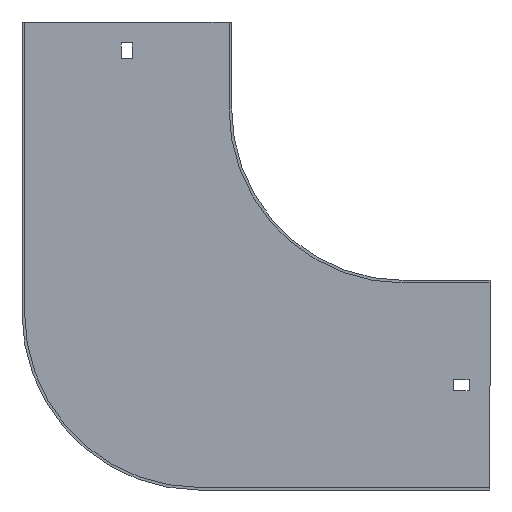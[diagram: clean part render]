
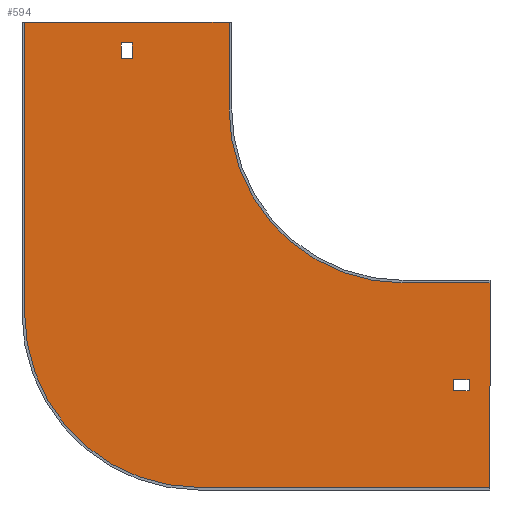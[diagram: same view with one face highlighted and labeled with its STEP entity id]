
A CAD part, front view. The second image highlights one B-rep face of the part: STEP entity #594.
In plain terms, the highlighted planar face has unit normal (0, -1, 0).
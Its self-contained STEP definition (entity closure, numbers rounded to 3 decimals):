
#6 = LINE ( 'NONE', #483, #518 ) ;
#14 = VERTEX_POINT ( 'NONE', #411 ) ;
#23 = EDGE_CURVE ( 'NONE', #787, #777, #464, .T. ) ;
#25 = DIRECTION ( 'NONE',  ( 1., 0., 0. ) ) ;
#30 = VERTEX_POINT ( 'NONE', #287 ) ;
#47 = CARTESIAN_POINT ( 'NONE',  ( 50., -1.5, -100. ) ) ;
#57 = FACE_BOUND ( 'NONE', #477, .T. ) ;
#63 = CARTESIAN_POINT ( 'NONE',  ( 50., -1.5, -98.5 ) ) ;
#74 = CARTESIAN_POINT ( 'NONE',  ( 50., -1.5, -217.5 ) ) ;
#80 = VERTEX_POINT ( 'NONE', #859 ) ;
#82 = DIRECTION ( 'NONE',  ( 0., 0., -1. ) ) ;
#97 = CARTESIAN_POINT ( 'NONE',  ( -162., -1.5, 29. ) ) ;
#98 = CARTESIAN_POINT ( 'NONE',  ( 38., -1.5, 0. ) ) ;
#101 = EDGE_CURVE ( 'NONE', #337, #119, #609, .T. ) ;
#108 = EDGE_CURVE ( 'NONE', #119, #255, #672, .T. ) ;
#110 = EDGE_CURVE ( 'NONE', #534, #450, #664, .T. ) ;
#112 = CARTESIAN_POINT ( 'NONE',  ( 0., -1.5, 38. ) ) ;
#119 = VERTEX_POINT ( 'NONE', #204 ) ;
#126 = ORIENTED_EDGE ( 'NONE', *, *, #812, .T. ) ;
#138 = EDGE_CURVE ( 'NONE', #485, #611, #814, .T. ) ;
#147 = CARTESIAN_POINT ( 'NONE',  ( -219., -1.5, 50. ) ) ;
#162 = CARTESIAN_POINT ( 'NONE',  ( 29., -1.5, -162. ) ) ;
#164 = ORIENTED_EDGE ( 'NONE', *, *, #110, .F. ) ;
#181 = VECTOR ( 'NONE', #604, 1000. ) ;
#185 = CARTESIAN_POINT ( 'NONE',  ( -117.5, -1.5, -217.5 ) ) ;
#188 = DIRECTION ( 'NONE',  ( 0., 0., -1. ) ) ;
#190 = CARTESIAN_POINT ( 'NONE',  ( -155.5, -1.5, 29. ) ) ;
#192 = VECTOR ( 'NONE', #418, 1000. ) ;
#194 = VERTEX_POINT ( 'NONE', #571 ) ;
#197 = CARTESIAN_POINT ( 'NONE',  ( 0., -1.5, 0. ) ) ;
#199 = ORIENTED_EDGE ( 'NONE', *, *, #284, .T. ) ;
#204 = CARTESIAN_POINT ( 'NONE',  ( 29., -1.5, -155.5 ) ) ;
#207 = VECTOR ( 'NONE', #82, 1000. ) ;
#208 = ORIENTED_EDGE ( 'NONE', *, *, #138, .T. ) ;
#212 = AXIS2_PLACEMENT_3D ( 'NONE', #596, #731, #188 ) ;
#217 = EDGE_CURVE ( 'NONE', #80, #534, #557, .T. ) ;
#220 = EDGE_CURVE ( 'NONE', #629, #337, #479, .T. ) ;
#223 = CARTESIAN_POINT ( 'NONE',  ( 0., -1.5, -100. ) ) ;
#230 = EDGE_LOOP ( 'NONE', ( #199, #208, #126, #685 ) ) ;
#234 = ORIENTED_EDGE ( 'NONE', *, *, #560, .F. ) ;
#236 = CARTESIAN_POINT ( 'NONE',  ( -155.5, -1.5, 0. ) ) ;
#247 = EDGE_CURVE ( 'NONE', #194, #14, #357, .T. ) ;
#248 = DIRECTION ( 'NONE',  ( -1., 0., 0. ) ) ;
#249 = DIRECTION ( 'NONE',  ( 1., 0., 0. ) ) ;
#255 = VERTEX_POINT ( 'NONE', #162 ) ;
#256 = EDGE_CURVE ( 'NONE', #255, #629, #682, .T. ) ;
#262 = EDGE_CURVE ( 'NONE', #14, #807, #691, .T. ) ;
#278 = DIRECTION ( 'NONE',  ( 0., 0., -1. ) ) ;
#279 = DIRECTION ( 'NONE',  ( 0., 0., 1. ) ) ;
#283 = AXIS2_PLACEMENT_3D ( 'NONE', #197, #320, #659 ) ;
#284 = EDGE_CURVE ( 'NONE', #777, #485, #364, .T. ) ;
#287 = CARTESIAN_POINT ( 'NONE',  ( -217.5, -1.5, -117.5 ) ) ;
#320 = DIRECTION ( 'NONE',  ( 0., -1., 0. ) ) ;
#333 = DIRECTION ( 'NONE',  ( 0., 0., -1. ) ) ;
#337 = VERTEX_POINT ( 'NONE', #407 ) ;
#344 = CARTESIAN_POINT ( 'NONE',  ( -162., -1.5, 0. ) ) ;
#348 = ORIENTED_EDGE ( 'NONE', *, *, #362, .F. ) ;
#350 = DIRECTION ( 'NONE',  ( -1., 0., 0. ) ) ;
#353 = CARTESIAN_POINT ( 'NONE',  ( -100., -1.5, 50. ) ) ;
#357 = LINE ( 'NONE', #147, #192 ) ;
#362 = EDGE_CURVE ( 'NONE', #30, #194, #6, .T. ) ;
#364 = LINE ( 'NONE', #112, #819 ) ;
#369 = DIRECTION ( 'NONE',  ( 0., 0., 1. ) ) ;
#399 = ORIENTED_EDGE ( 'NONE', *, *, #101, .F. ) ;
#407 = CARTESIAN_POINT ( 'NONE',  ( 38., -1.5, -155.5 ) ) ;
#411 = CARTESIAN_POINT ( 'NONE',  ( -100., -1.5, 50. ) ) ;
#418 = DIRECTION ( 'NONE',  ( 1., 0., 0. ) ) ;
#423 = CARTESIAN_POINT ( 'NONE',  ( 38., -1.5, -162. ) ) ;
#450 = VERTEX_POINT ( 'NONE', #636 ) ;
#451 = CIRCLE ( 'NONE', #686, 100. ) ;
#463 = FACE_OUTER_BOUND ( 'NONE', #617, .T. ) ;
#464 = LINE ( 'NONE', #344, #800 ) ;
#470 = ORIENTED_EDGE ( 'NONE', *, *, #220, .F. ) ;
#477 = EDGE_LOOP ( 'NONE', ( #399, #470, #776, #839 ) ) ;
#479 = LINE ( 'NONE', #98, #640 ) ;
#483 = CARTESIAN_POINT ( 'NONE',  ( -217.5, -1.5, -117.5 ) ) ;
#485 = VERTEX_POINT ( 'NONE', #830 ) ;
#505 = ORIENTED_EDGE ( 'NONE', *, *, #708, .F. ) ;
#506 = CARTESIAN_POINT ( 'NONE',  ( 0., -1.5, 29. ) ) ;
#508 = ORIENTED_EDGE ( 'NONE', *, *, #262, .F. ) ;
#515 = VECTOR ( 'NONE', #25, 1000. ) ;
#518 = VECTOR ( 'NONE', #279, 1000. ) ;
#530 = ORIENTED_EDGE ( 'NONE', *, *, #217, .F. ) ;
#531 = VECTOR ( 'NONE', #333, 1000. ) ;
#534 = VERTEX_POINT ( 'NONE', #47 ) ;
#557 = LINE ( 'NONE', #223, #515 ) ;
#559 = VERTEX_POINT ( 'NONE', #185 ) ;
#560 = EDGE_CURVE ( 'NONE', #807, #80, #652, .T. ) ;
#566 = CARTESIAN_POINT ( 'NONE',  ( -162., -1.5, 38. ) ) ;
#571 = CARTESIAN_POINT ( 'NONE',  ( -217.5, -1.5, 50. ) ) ;
#580 = DIRECTION ( 'NONE',  ( 0., 0., -1. ) ) ;
#583 = ORIENTED_EDGE ( 'NONE', *, *, #247, .F. ) ;
#589 = VECTOR ( 'NONE', #688, 1000. ) ;
#591 = FACE_BOUND ( 'NONE', #230, .T. ) ;
#594 = ADVANCED_FACE ( 'NONE', ( #57, #463, #591 ), #780, .T. ) ;
#596 = CARTESIAN_POINT ( 'NONE',  ( 0., -1.5, 0. ) ) ;
#604 = DIRECTION ( 'NONE',  ( -1., 0., 0. ) ) ;
#609 = LINE ( 'NONE', #796, #181 ) ;
#611 = VERTEX_POINT ( 'NONE', #190 ) ;
#617 = EDGE_LOOP ( 'NONE', ( #583, #348, #743, #505, #164, #530, #234, #508 ) ) ;
#621 = DIRECTION ( 'NONE',  ( 0., 0., -1. ) ) ;
#629 = VERTEX_POINT ( 'NONE', #423 ) ;
#636 = CARTESIAN_POINT ( 'NONE',  ( 50., -1.5, -217.5 ) ) ;
#638 = CARTESIAN_POINT ( 'NONE',  ( -100., -1.5, 0. ) ) ;
#640 = VECTOR ( 'NONE', #369, 1000. ) ;
#650 = DIRECTION ( 'NONE',  ( 0., 1., 0. ) ) ;
#652 = CIRCLE ( 'NONE', #283, 100. ) ;
#656 = DIRECTION ( 'NONE',  ( 0., 0., 1. ) ) ;
#659 = DIRECTION ( 'NONE',  ( 0., 0., -1. ) ) ;
#664 = LINE ( 'NONE', #63, #778 ) ;
#672 = LINE ( 'NONE', #732, #531 ) ;
#680 = LINE ( 'NONE', #74, #788 ) ;
#682 = LINE ( 'NONE', #695, #589 ) ;
#685 = ORIENTED_EDGE ( 'NONE', *, *, #23, .T. ) ;
#686 = AXIS2_PLACEMENT_3D ( 'NONE', #782, #650, #580 ) ;
#688 = DIRECTION ( 'NONE',  ( 1., 0., 0. ) ) ;
#691 = LINE ( 'NONE', #353, #207 ) ;
#695 = CARTESIAN_POINT ( 'NONE',  ( 0., -1.5, -162. ) ) ;
#708 = EDGE_CURVE ( 'NONE', #450, #559, #680, .T. ) ;
#731 = DIRECTION ( 'NONE',  ( 0., -1., 0. ) ) ;
#732 = CARTESIAN_POINT ( 'NONE',  ( 29., -1.5, 0. ) ) ;
#743 = ORIENTED_EDGE ( 'NONE', *, *, #833, .F. ) ;
#752 = VECTOR ( 'NONE', #621, 1000. ) ;
#772 = LINE ( 'NONE', #506, #820 ) ;
#776 = ORIENTED_EDGE ( 'NONE', *, *, #256, .F. ) ;
#777 = VERTEX_POINT ( 'NONE', #566 ) ;
#778 = VECTOR ( 'NONE', #278, 1000. ) ;
#780 = PLANE ( 'NONE',  #212 ) ;
#782 = CARTESIAN_POINT ( 'NONE',  ( -117.5, -1.5, -117.5 ) ) ;
#787 = VERTEX_POINT ( 'NONE', #97 ) ;
#788 = VECTOR ( 'NONE', #350, 1000. ) ;
#796 = CARTESIAN_POINT ( 'NONE',  ( 0., -1.5, -155.5 ) ) ;
#800 = VECTOR ( 'NONE', #656, 1000. ) ;
#807 = VERTEX_POINT ( 'NONE', #638 ) ;
#812 = EDGE_CURVE ( 'NONE', #611, #787, #772, .T. ) ;
#814 = LINE ( 'NONE', #236, #752 ) ;
#819 = VECTOR ( 'NONE', #249, 1000. ) ;
#820 = VECTOR ( 'NONE', #248, 1000. ) ;
#830 = CARTESIAN_POINT ( 'NONE',  ( -155.5, -1.5, 38. ) ) ;
#833 = EDGE_CURVE ( 'NONE', #559, #30, #451, .T. ) ;
#839 = ORIENTED_EDGE ( 'NONE', *, *, #108, .F. ) ;
#859 = CARTESIAN_POINT ( 'NONE',  ( 0., -1.5, -100. ) ) ;
